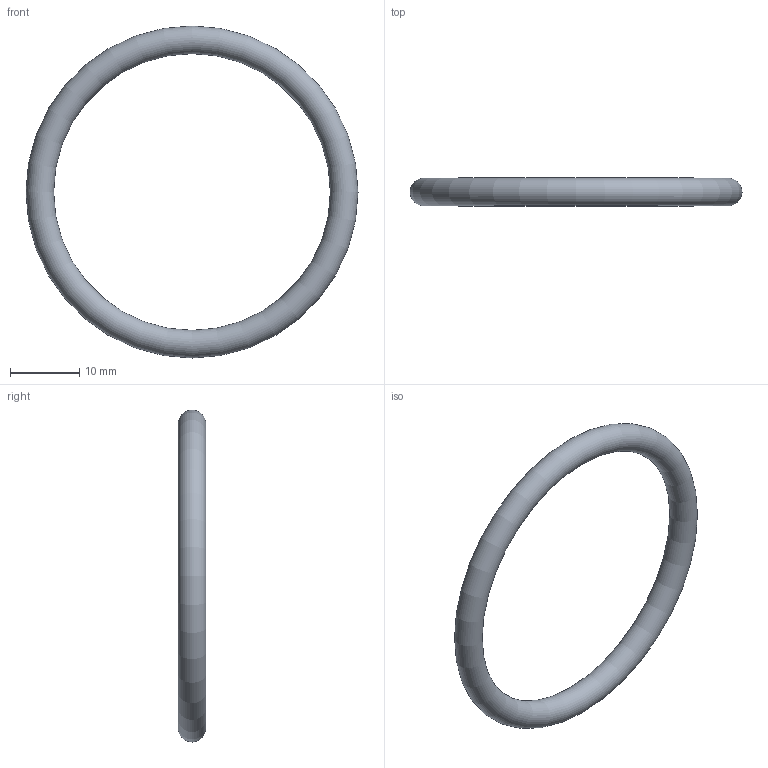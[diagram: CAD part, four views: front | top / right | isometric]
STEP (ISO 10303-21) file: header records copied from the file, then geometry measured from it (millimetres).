
FILE_DESCRIPTION( ( 'STEP AP203' ), '1' );
FILE_NAME( 'C:/Temp/Ganter_Step_05_03_2020/data/3_5/or638/O-Ring OR638-40.00-4.00-70.stp', '2020-03-12T13:44:33', ( 'License CC BY-ND 4.0' ), ( 'CADENAS' ), ' ', 'PARTsolutions', ' ' );
FILE_SCHEMA( ( 'CONFIG_CONTROL_DESIGN' ) );
Length unit declared in the file: millimetre
Products named in the file (1): _O-Ring OR638-40.00-4.00-70
Bounding box: 48 x 4 x 48 mm (x, y, z)
Volume: 1737.1 mm3; surface area: 1737.1 mm2
Topology: 1 solids, 1 shells, 1 faces, 2 edges, 1 vertices
Faces by surface type: torus 1
Entity records: 62 total; most frequent: CC_DESIGN_PERSON_AND_ORGANIZATION_ASSIGNMENT 5, PERSON_AND_ORGANIZATION_ROLE 4, DIRECTION 4, CARTESIAN_POINT 3, DATE_TIME_ROLE 2, CC_DESIGN_DATE_AND_TIME_ASSIGNMENT 2, AXIS2_PLACEMENT_3D 2, DIMENSIONAL_EXPONENTS 2
